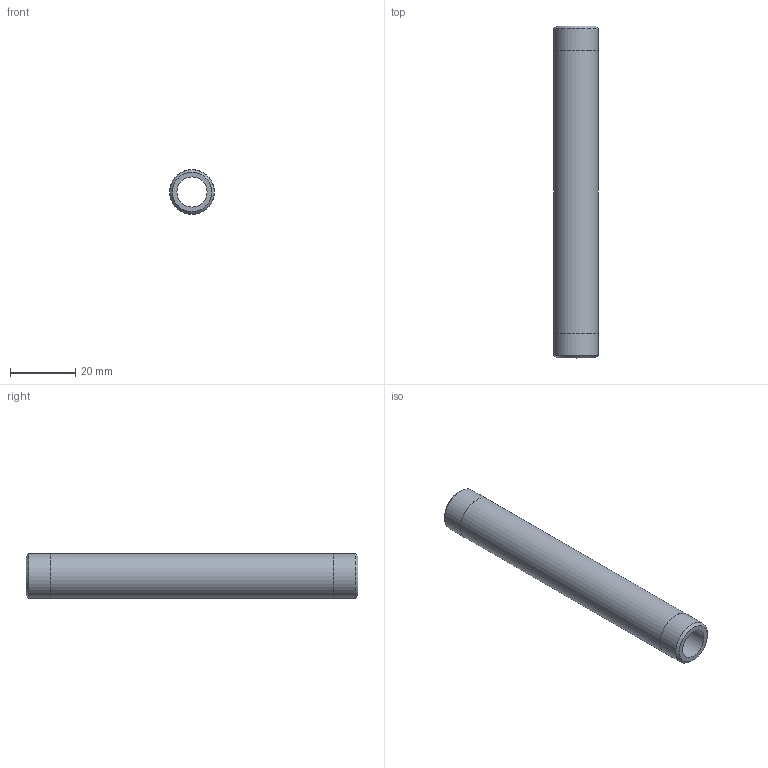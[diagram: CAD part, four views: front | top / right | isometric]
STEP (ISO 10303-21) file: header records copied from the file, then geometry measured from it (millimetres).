
FILE_DESCRIPTION(/* description */ (''),/* implementation_level */ '2;1');
FILE_NAME(/* name */ 'C:/Users/drich/Desktop/BPN14-4 v1.step',/* time_stamp */ '2020-01-03T14:37:11-06:00',/* author */ (''),/* organization */ (''),/* preprocessor_version */ 'ST-DEVELOPER v18',/* originating_system */ 'Autodesk Translation Framework v8.12.0.6',/* authorisation */ '');
FILE_SCHEMA (('AUTOMOTIVE_DESIGN { 1 0 10303 214 3 1 1 }'));
Length unit declared in the file: inch
Products named in the file (1): BPN14-4
Bounding box: 13.72 x 101.6 x 13.72 mm (x, y, z)
Volume: 8150.3 mm3; surface area: 7448 mm2
Topology: 1 solids, 1 shells, 10 faces, 24 edges, 18 vertices
Faces by surface type: cylinder 4, plane 4, cone 2
Full cylindrical faces by diameter (mm): 9.246 x1, 13.665 x2, 13.716 x1
Entity records: 360 total; most frequent: DIRECTION 64, CARTESIAN_POINT 53, ORIENTED_EDGE 48, AXIS2_PLACEMENT_3D 29, EDGE_CURVE 24, CIRCLE 18, VERTEX_POINT 18, EDGE_LOOP 14
